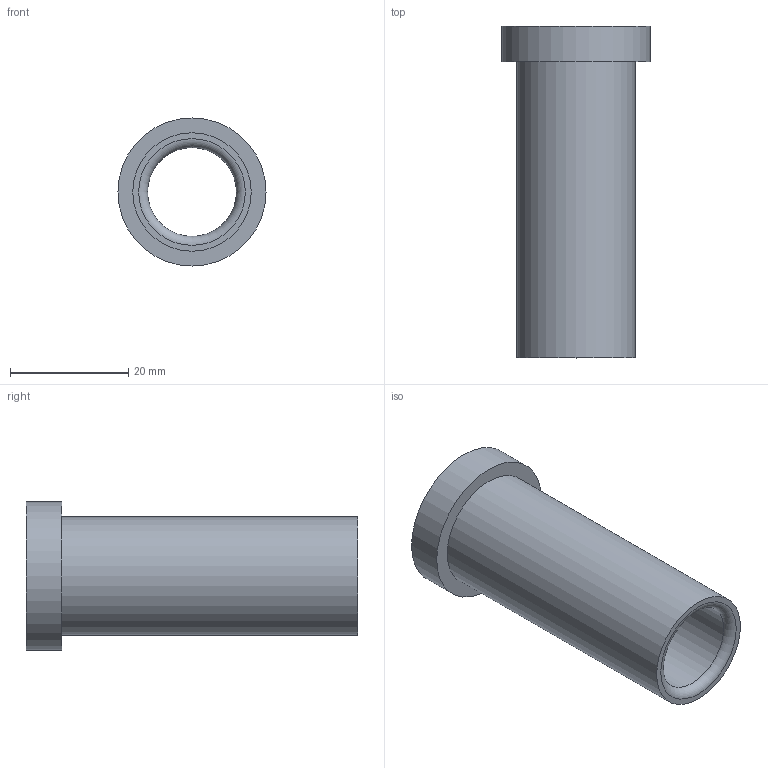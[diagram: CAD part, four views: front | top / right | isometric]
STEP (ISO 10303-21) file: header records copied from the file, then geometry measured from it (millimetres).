
FILE_DESCRIPTION(/* description */ ('STEP AP214'),/* implementation_level */ '2;1');
FILE_NAME(/* name */ '03_12_17844',/* time_stamp */ '2023-06-15T11:35:26+02:00',/* author */ ('License CC BY-ND 4.0'),/* organization */ ('CADENAS'),/* preprocessor_version */ 'ST-DEVELOPER v19.3',/* originating_system */ 'PARTsolutions',/* authorisation */ ' ');
FILE_SCHEMA (('AUTOMOTIVE_DESIGN {1 0 10303 214 3 1 1}'));
Length unit declared in the file: millimetre
Products named in the file (1): VA_Bushing_17844
Bounding box: 25 x 56 x 25 mm (x, y, z)
Volume: 8547.2 mm3; surface area: 6841.3 mm2
Topology: 1 solids, 1 shells, 10 faces, 16 edges, 10 vertices
Faces by surface type: cylinder 4, plane 4, torus 2
Full cylindrical faces by diameter (mm): 15 x1, 15.6 x1, 20 x1, 25 x1
Entity records: 302 total; most frequent: DIRECTION 42, CARTESIAN_POINT 31, AXIS2_PLACEMENT_3D 21, ORIENTED_EDGE 20, EDGE_LOOP 20, FACE_BOUND 20, EDGE_CURVE 10, VERTEX_POINT 10
